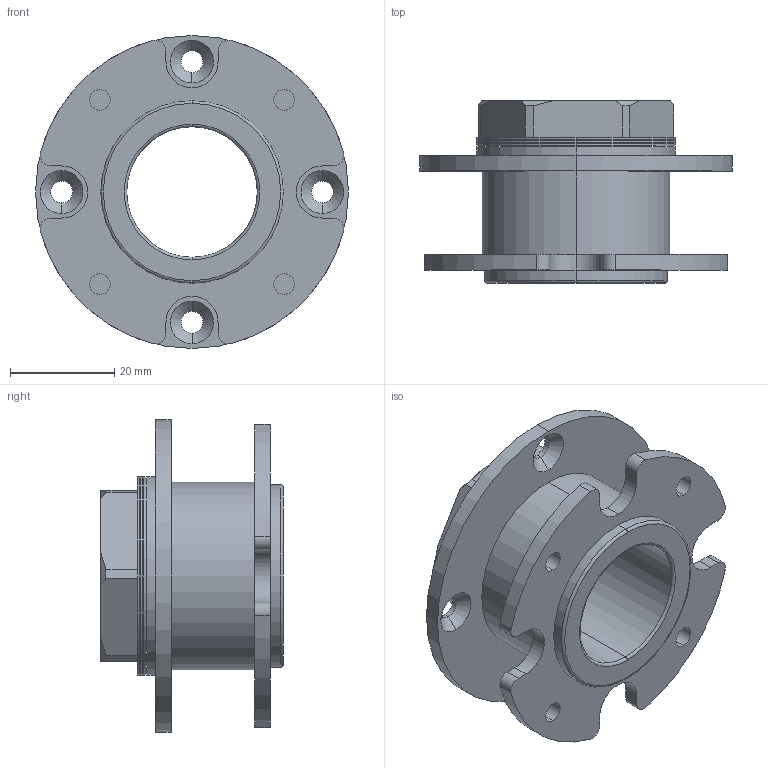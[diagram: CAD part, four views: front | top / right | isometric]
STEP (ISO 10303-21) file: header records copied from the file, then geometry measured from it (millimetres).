
FILE_DESCRIPTION (( 'STEP AP203' ), '1' );
FILE_NAME ('XG11-119.STEP', '2025-03-24T06:37:07', ( '微软用户' ), ( '微软中国' ), 'SwSTEP 2.0', 'SolidWorks 2024', '' );
FILE_SCHEMA (( 'CONFIG_CONTROL_DESIGN' ));
Length unit declared in the file: millimetre
Products named in the file (1): XG11-119
Bounding box: 60 x 35 x 60 mm (x, y, z)
Volume: 27252 mm3; surface area: 18491.5 mm2
Topology: 1 solids, 1 shells, 108 faces, 273 edges, 178 vertices
Faces by surface type: cylinder 57, plane 39, cone 8, torus 4
Entity records: 3404 total; most frequent: DIRECTION 621, CARTESIAN_POINT 560, ORIENTED_EDGE 546, EDGE_CURVE 273, AXIS2_PLACEMENT_3D 239, VERTEX_POINT 178, VECTOR 143, LINE 143
